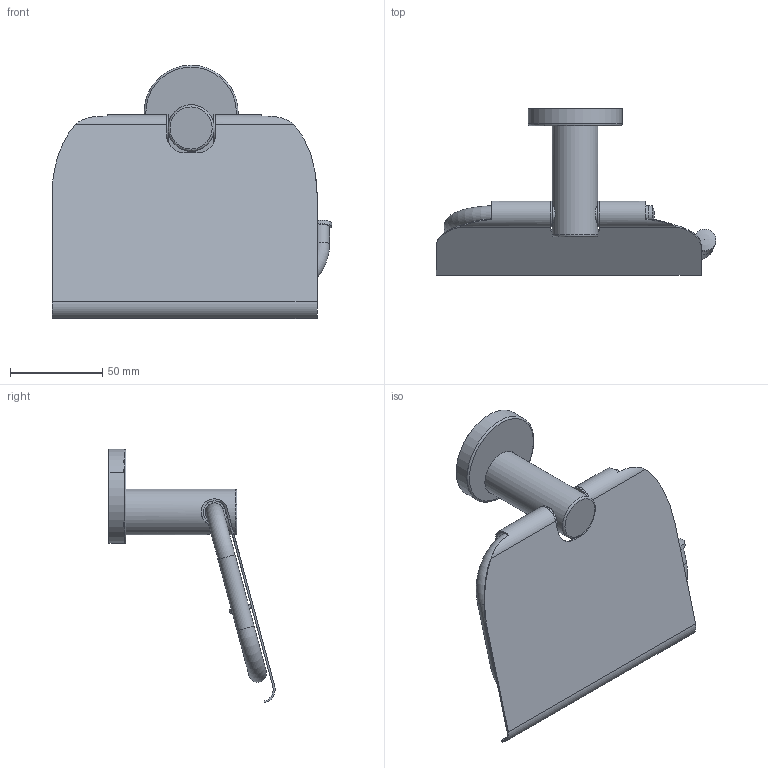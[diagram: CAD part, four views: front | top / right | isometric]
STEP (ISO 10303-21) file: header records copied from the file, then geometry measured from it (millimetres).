
FILE_DESCRIPTION(/* description */ (''),/* implementation_level */ '2;1');
FILE_NAME(/* name */ '4111161',/* time_stamp */ '2019-08-26T09:16:01+08:00',/* author */ (''),/* organization */ (''),/* preprocessor_version */ 'ST-DEVELOPER v9',/* originating_system */ 'UGS - NX 4.0',/* authorisation */ '');
FILE_SCHEMA (('CONFIG_CONTROL_DESIGN'));
Length unit declared in the file: millimetre
Products named in the file (1): w335DEEtk2v
Bounding box: 151.5 x 89.94 x 137.3 mm (x, y, z)
Volume: 52885.9 mm3; surface area: 78800.8 mm2
Topology: 9 solids, 9 shells, 148 faces, 352 edges, 222 vertices
Faces by surface type: plane 75, cylinder 57, torus 9, cone 5, sphere 2
Full cylindrical faces by diameter (mm): 4.2 x1, 7.7 x4, 8.5 x1, 9.5 x5, 9.6 x1, 10 x2, 12 x3, 12.2 x2, 14.3 x2, 18.8 x1, 24.8 x1, 25.3 x1, 50 x1, 51 x1
Entity records: 4208 total; most frequent: CARTESIAN_POINT 810, DIRECTION 720, ORIENTED_EDGE 600, EDGE_CURVE 300, AXIS2_PLACEMENT_3D 283, VERTEX_POINT 213, EDGE_LOOP 211, LINE 154
